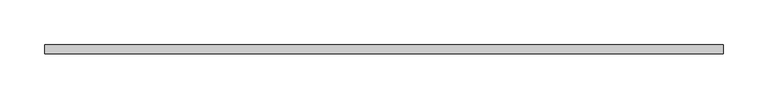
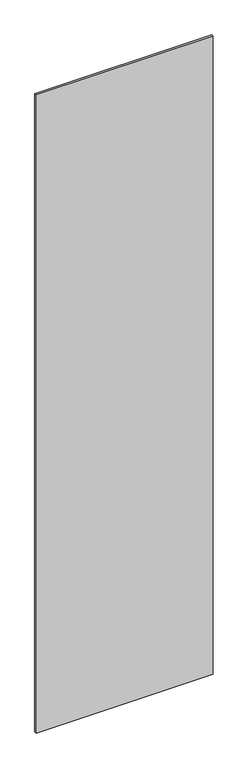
"""IFC4 building model written with IfcOpenShell, lengths in millimetres: plate geometry, システム パネル : 標準."""

from ifc_helpers import new_model, si_unit, origin, origin_with_axes, place, context, project, spatial, polyline, outline, extrude, source, transform, mapped, element, save


def plate_4b01b467(model_context):
    return source(origin(), model_context, "Body", "SweptSolid", [
        extrude(outline(polyline([(380.0, -5.0), (-380.0, -5.0), (-380.0, 5.0), (380.0, 5.0), (380.0, -5.0)])), origin_with_axes(), (0.0, 0.0, 1.0), 2895.0),
    ])


if __name__ == "__main__":
    model = new_model("IFC4")
    model_context = context("Model", 3, world=origin())
    ifc_project = project(units=[si_unit("LENGTHUNIT", "METRE", prefix="MILLI")], contexts=[model_context])
    site = spatial("IfcSite", under=ifc_project)
    building = spatial("IfcBuilding", under=site)
    placement = place(None, origin())
    plate_shape = plate_4b01b467(model_context)
    element("IfcPlate", 1, ObjectType="システム パネル : 標準", at=placement, inside=building, context=model_context, shape_type="MappedRepresentation", body=[
        mapped(plate_shape, transform((0.0, 0.0, 0.0), x_axis=(1.0, 0.0, 0.0), y_axis=(0.0, 1.0, 0.0), z_axis=(0.0, 0.0, 1.0))),
    ])
    save(model, "model.ifc")
